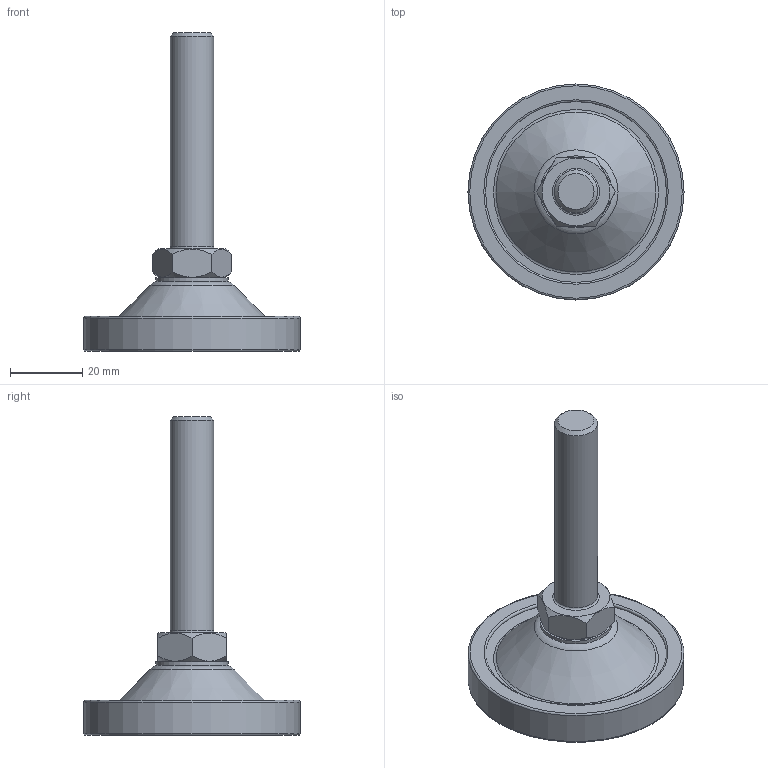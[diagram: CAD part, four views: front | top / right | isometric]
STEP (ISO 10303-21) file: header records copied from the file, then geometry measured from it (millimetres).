
FILE_DESCRIPTION(/* description */ (''),/* implementation_level */ '2;1');
FILE_NAME(/* name */ 'D:\조절자\PFR\PFR-M12-60L.stp',/* time_stamp */ '2016-03-14T15:05:55+09:00',/* author */ ('GS-DT-1-001'),/* organization */ (''),/* preprocessor_version */ 'ST-DEVELOPER v15.6',/* originating_system */ 'Autodesk Inventor LT ',/* authorisation */ '');
FILE_SCHEMA (('AUTOMOTIVE_DESIGN { 1 0 10303 214 3 1 1 }'));
Length unit declared in the file: millimetre
Products named in the file (1): PFR-M12-60L
Bounding box: 60 x 60 x 88.5 mm (x, y, z)
Volume: 32956.6 mm3; surface area: 19571.6 mm2
Topology: 5 solids, 5 shells, 69 faces, 126 edges, 77 vertices
Faces by surface type: plane 26, torus 20, cone 13, cylinder 10
Full cylindrical faces by diameter (mm): 5.153 x1, 6 x1, 6.2 x2, 12 x2, 20 x1, 54 x1, 54.2 x1, 60 x1
Entity records: 1438 total; most frequent: DIRECTION 264, CARTESIAN_POINT 242, ORIENTED_EDGE 154, AXIS2_PLACEMENT_3D 129, EDGE_LOOP 126, EDGE_CURVE 77, VERTEX_POINT 71, FACE_OUTER_BOUND 69
